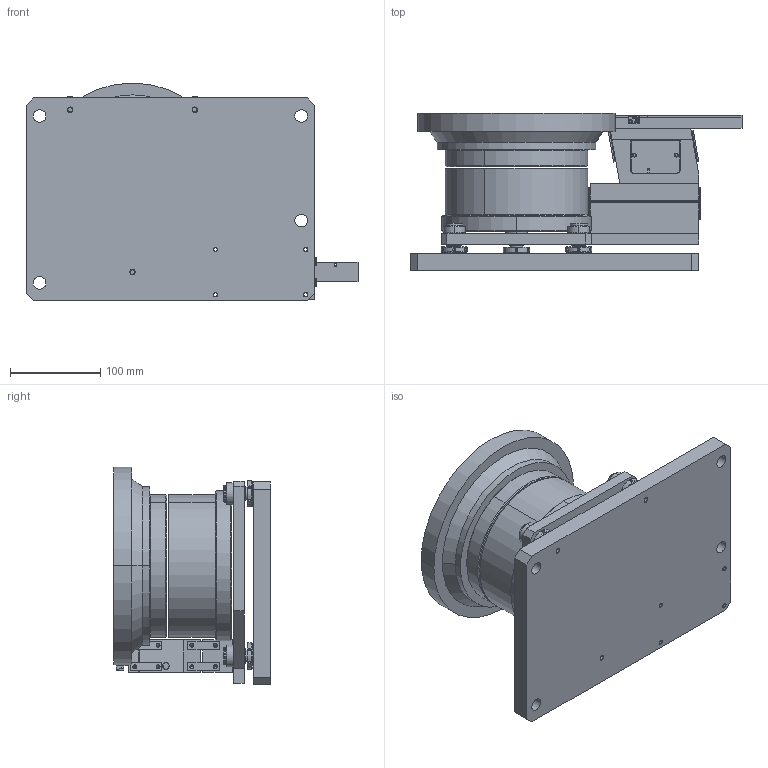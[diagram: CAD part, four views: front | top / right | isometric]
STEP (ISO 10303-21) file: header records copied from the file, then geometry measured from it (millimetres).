
FILE_DESCRIPTION((''),'2;1');
FILE_NAME('G_ASM','2021-09-02T10:51:47',('Administrator'),(''),'CREO PARAMETRIC BY PTC INC, 2020154','CREO PARAMETRIC BY PTC INC, 2020154','');
FILE_SCHEMA(('CONFIG_CONTROL_DESIGN'));
Length unit declared in the file: millimetre
Products named in the file (30): G1; BU160-1; BU160-2; BU160-3; BU160-4; BU140-20; BU140-21; BU140-22; BU140_5_ASM; BU160_ASM; B220; LT1; LT2; LT3; DS-P1; LT_ASM; LF100C-1; LF100C-2; SPRING35-9; LF100C-3; EM35-15-24_5; EM35-15-I; LF100C-15; LF100C_V_ASM; LF100C-10; LF100C-11; LF100C-12; LF100C_B_ASM; LF100C_ASM; G_ASM
Assembly tree (41 placements, depth 4):
  G_ASM
    G1
    BU160_ASM
      BU160-1
      BU160-2
      BU160-3
      BU160-4
      BU140_5_ASM  x3
        BU140-20
        BU140-21
        BU140-22
    B220
    LT_ASM
      LT1
      LT2
      LT3
      DS-P1  x2
    LF100C_ASM
      LF100C_V_ASM
        LF100C-1
        LF100C-2
        SPRING35-9  x4
        LF100C-3  x2
        EM35-15-24_5
        EM35-15-I
        LF100C-15  x2
      LF100C_B_ASM
        LF100C-10
        LF100C-11
        LF100C-12
        SPRING35-9  x4
Bounding box: 368 x 174 x 241.5 mm (x, y, z)
Volume: 4247367.9 mm3; surface area: 682626.1 mm2
Topology: 39 solids, 100 shells, 965 faces, 2371 edges, 1518 vertices
Faces by surface type: cylinder 492, plane 335, cone 138
Entity records: 21987 total; most frequent: DIRECTION 4149, CARTESIAN_POINT 3835, ORIENTED_EDGE 3142, EDGE_CURVE 1689, AXIS2_PLACEMENT_3D 1652, VERTEX_POINT 1126, EDGE_LOOP 901, VECTOR 845
